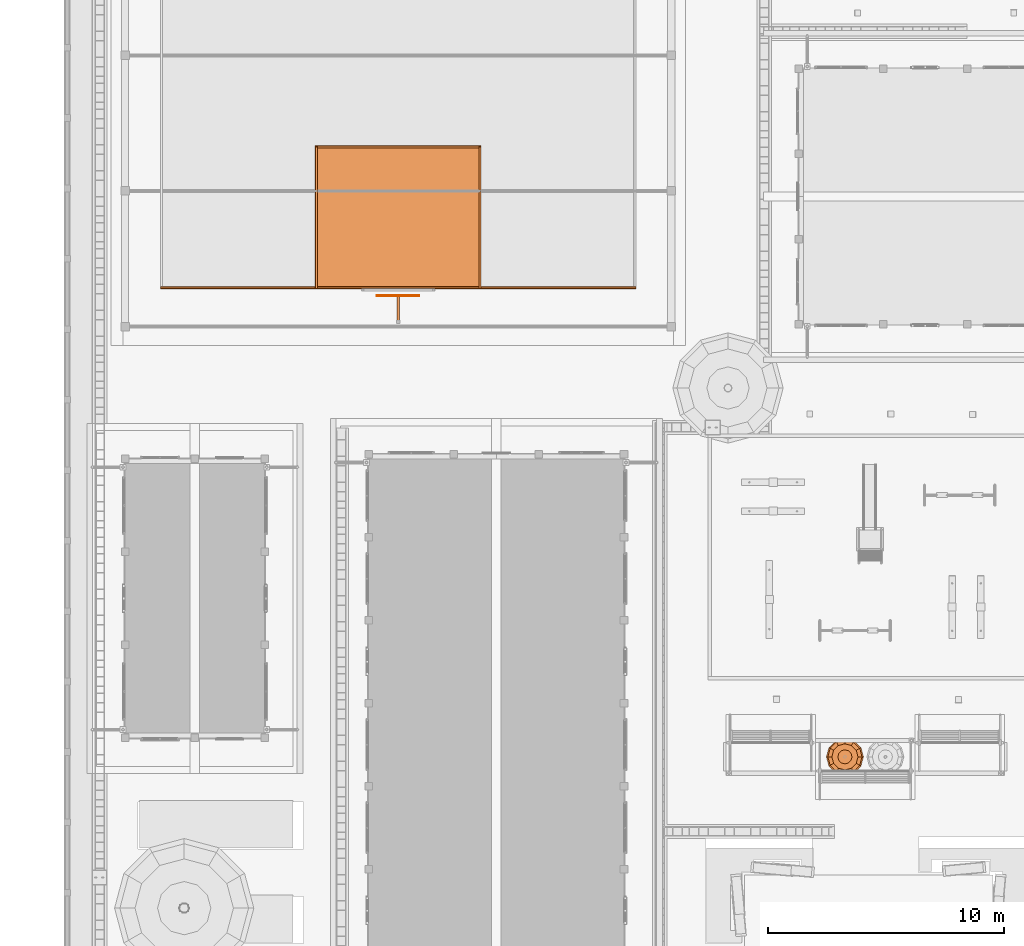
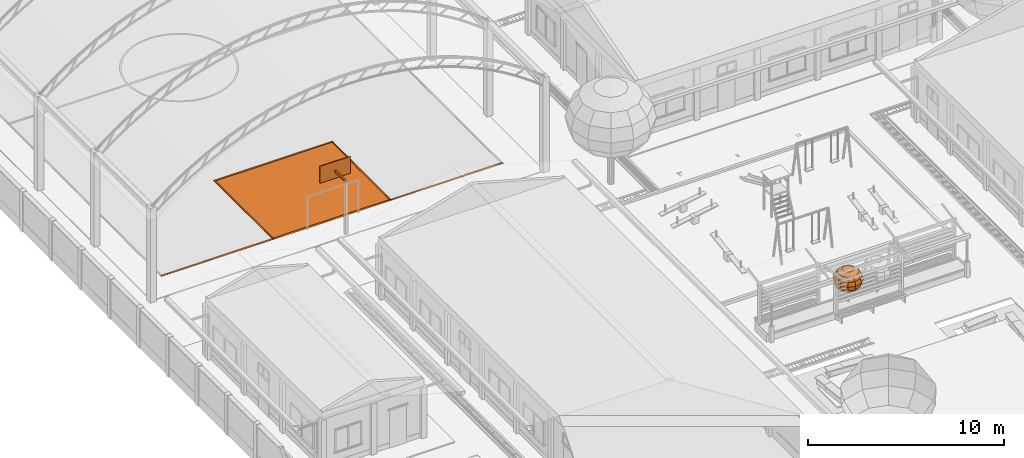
# One storey, part 157 of 166: 8 proxies.
"""IFC2X3 building model written with IfcOpenShell, lengths in metres."""

from ifc_helpers import new_model, si_unit, origin, origin_with_axes, place, context, subcontext, project, spatial, faceted_brep, element, save


model = new_model("IFC2X3")

# Units and contexts
model_context = context("Model", 3, precision=1e-05, world=origin_with_axes())
body_context = subcontext(model_context, "Body", "Model", "MODEL_VIEW")
ifc_project = project(units=[si_unit("LENGTHUNIT", "METRE"), si_unit("AREAUNIT", "SQUARE_METRE"), si_unit("VOLUMEUNIT", "CUBIC_METRE"), si_unit("PLANEANGLEUNIT", "RADIAN")], contexts=[model_context])

# Site, building, storey
site_placement = place(None, origin_with_axes())
site = spatial("IfcSite", under=ifc_project, at=site_placement, Name="Predio Los Mangos - Morales, San Martín", CompositionType="ELEMENT")
building_placement = place(site_placement, origin())
building = spatial("IfcBuilding", under=site, at=building_placement, Name="Hogar de Refugio Temporal", CompositionType="ELEMENT")
storey_placement = place(building_placement, origin())
storey = spatial("IfcBuildingStorey", under=building, at=storey_placement, Name="NIVEL 1 (NPT +0.00)", CompositionType="ELEMENT", Elevation=0.0)

# Proxies
proxy_1_placement = place(storey_placement, origin())
element("IfcBuildingElementProxy", 1, at=proxy_1_placement, inside=storey, Name="linea_cancha", ObjectType="Losa deportiva y vía", context=body_context, shape_type="Brep", body=[
    faceted_brep([(5.0, 94.2, 0.125), (5.0, 94.28, 0.125), (25.1, 94.28, 0.125), (25.1, 94.2, 0.125), (5.0, 94.2, 0.127), (25.1, 94.2, 0.127), (25.1, 94.28, 0.127), (5.0, 94.28, 0.127)], [[[0, 1, 2, 3]], [[4, 5, 6, 7]], [[0, 3, 5, 4]], [[3, 2, 6, 5]], [[2, 1, 7, 6]], [[1, 0, 4, 7]]]),
])
proxy_2_placement = place(storey_placement, origin())
element("IfcBuildingElementProxy", 2, at=proxy_2_placement, inside=storey, Name="area", ObjectType="Losa deportiva y vía", context=body_context, shape_type="Brep", body=[
    faceted_brep([(11.55, 94.2, 0.125), (11.55, 100.2, 0.125), (18.55, 100.2, 0.125), (18.55, 94.2, 0.125), (11.55, 94.2, 0.127), (18.55, 94.2, 0.127), (18.55, 100.2, 0.127), (11.55, 100.2, 0.127)], [[[0, 1, 2, 3]], [[4, 5, 6, 7]], [[0, 3, 5, 4]], [[3, 2, 6, 5]], [[2, 1, 7, 6]], [[1, 0, 4, 7]]]),
])
proxy_3_placement = place(storey_placement, origin())
element("IfcBuildingElementProxy", 3, at=proxy_3_placement, inside=storey, Name="linea_area", ObjectType="Losa deportiva y vía", context=body_context, shape_type="Brep", body=[
    faceted_brep([(11.55, 94.2, 0.127), (11.55, 100.2, 0.127), (11.63, 100.2, 0.127), (11.63, 94.2, 0.127), (11.55, 94.2, 0.129), (11.63, 94.2, 0.129), (11.63, 100.2, 0.129), (11.55, 100.2, 0.129)], [[[0, 1, 2, 3]], [[4, 5, 6, 7]], [[0, 3, 5, 4]], [[3, 2, 6, 5]], [[2, 1, 7, 6]], [[1, 0, 4, 7]]]),
])
proxy_4_placement = place(storey_placement, origin())
element("IfcBuildingElementProxy", 4, at=proxy_4_placement, inside=storey, Name="linea_area", ObjectType="Losa deportiva y vía", context=body_context, shape_type="Brep", body=[
    faceted_brep([(18.47, 94.2, 0.127), (18.47, 100.2, 0.127), (18.55, 100.2, 0.127), (18.55, 94.2, 0.127), (18.47, 94.2, 0.129), (18.55, 94.2, 0.129), (18.55, 100.2, 0.129), (18.47, 100.2, 0.129)], [[[0, 1, 2, 3]], [[4, 5, 6, 7]], [[0, 3, 5, 4]], [[3, 2, 6, 5]], [[2, 1, 7, 6]], [[1, 0, 4, 7]]]),
])
proxy_5_placement = place(storey_placement, origin())
element("IfcBuildingElementProxy", 5, at=proxy_5_placement, inside=storey, Name="linea_area", ObjectType="Losa deportiva y vía", context=body_context, shape_type="Brep", body=[
    faceted_brep([(11.55, 100.16, 0.127), (11.55, 100.24, 0.127), (18.55, 100.24, 0.127), (18.55, 100.16, 0.127), (11.55, 100.16, 0.129), (18.55, 100.16, 0.129), (18.55, 100.24, 0.129), (11.55, 100.24, 0.129)], [[[0, 1, 2, 3]], [[4, 5, 6, 7]], [[0, 3, 5, 4]], [[3, 2, 6, 5]], [[2, 1, 7, 6]], [[1, 0, 4, 7]]]),
])
proxy_6_placement = place(storey_placement, origin())
element("IfcBuildingElementProxy", 6, at=proxy_6_placement, inside=storey, Name="tablero", ObjectType="Losa deportiva y vía", context=body_context, shape_type="Brep", body=[
    faceted_brep([(14.15, 93.88, 2.9), (14.15, 93.92, 2.9), (15.95, 93.92, 2.9), (15.95, 93.88, 2.9), (14.15, 93.88, 3.95), (15.95, 93.88, 3.95), (15.95, 93.92, 3.95), (14.15, 93.92, 3.95)], [[[0, 1, 2, 3]], [[4, 5, 6, 7]], [[0, 3, 5, 4]], [[3, 2, 6, 5]], [[2, 1, 7, 6]], [[1, 0, 4, 7]]]),
])
proxy_7_placement = place(storey_placement, origin())
element("IfcBuildingElementProxy", 7, at=proxy_7_placement, inside=storey, Name="brazo", ObjectType="Losa deportiva y vía", context=body_context, shape_type="Brep", body=[
    faceted_brep([(15.0, 92.8, 3.3), (15.0, 93.9, 3.3), (15.1, 93.9, 3.3), (15.1, 92.8, 3.3), (15.0, 92.8, 3.4), (15.1, 92.8, 3.4), (15.1, 93.9, 3.4), (15.0, 93.9, 3.4)], [[[0, 1, 2, 3]], [[4, 5, 6, 7]], [[0, 3, 5, 4]], [[3, 2, 6, 5]], [[2, 1, 7, 6]], [[1, 0, 4, 7]]]),
])
proxy_8_placement = place(storey_placement, origin())
element("IfcBuildingElementProxy", 8, at=proxy_8_placement, inside=storey, Name="arbol_copa", ObjectType="Árbol", context=body_context, shape_type="Brep", body=[
    faceted_brep([(33.945, 74.4, 2.5172), (33.945, 74.4, 2.5172), (34.2042, 74.5496, 2.4666), (34.2443, 74.4, 2.4666), (33.945, 74.4, 2.5172), (34.0946, 74.6592, 2.4666), (33.945, 74.4, 2.5172), (33.945, 74.6993, 2.4666), (33.945, 74.4, 2.5172), (33.7954, 74.6592, 2.4666), (33.945, 74.4, 2.5172), (33.6858, 74.5496, 2.4666), (33.945, 74.4, 2.5172), (33.6457, 74.4, 2.4666), (33.945, 74.4, 2.5172), (33.6858, 74.2504, 2.4666), (33.945, 74.4, 2.5172), (33.7954, 74.1408, 2.4666), (33.945, 74.4, 2.5172), (33.945, 74.1007, 2.4666), (33.945, 74.4, 2.5172), (34.0946, 74.1408, 2.4666), (33.945, 74.4, 2.5172), (34.2042, 74.2504, 2.4666), (34.4239, 74.6765, 2.3225), (34.498, 74.4, 2.3225), (34.2215, 74.8789, 2.3225), (33.945, 74.953, 2.3225), (33.6685, 74.8789, 2.3225), (33.4661, 74.6765, 2.3225), (33.392, 74.4, 2.3225), (33.4661, 74.1235, 2.3225), (33.6685, 73.9211, 2.3225), (33.945, 73.847, 2.3225), (34.2215, 73.9211, 2.3225), (34.4239, 74.1235, 2.3225), (34.5707, 74.7612, 2.1069), (34.6675, 74.4, 2.1069), (34.3062, 75.0257, 2.1069), (33.945, 75.1225, 2.1069), (33.5838, 75.0257, 2.1069), (33.3193, 74.7612, 2.1069), (33.2225, 74.4, 2.1069), (33.3193, 74.0388, 2.1069), (33.5838, 73.7743, 2.1069), (33.945, 73.6775, 2.1069), (34.3062, 73.7743, 2.1069), (34.5707, 74.0388, 2.1069), (34.6222, 74.791, 1.8525), (34.727, 74.4, 1.8525), (34.336, 75.0772, 1.8525), (33.945, 75.182, 1.8525), (33.554, 75.0772, 1.8525), (33.2678, 74.791, 1.8525), (33.163, 74.4, 1.8525), (33.2678, 74.009, 1.8525), (33.554, 73.7228, 1.8525), (33.945, 73.618, 1.8525), (34.336, 73.7228, 1.8525), (34.6222, 74.009, 1.8525), (34.5707, 74.7612, 1.5981), (34.6675, 74.4, 1.5981), (34.3062, 75.0257, 1.5981), (33.945, 75.1225, 1.5981), (33.5838, 75.0257, 1.5981), (33.3193, 74.7612, 1.5981), (33.2225, 74.4, 1.5981), (33.3193, 74.0388, 1.5981), (33.5838, 73.7743, 1.5981), (33.945, 73.6775, 1.5981), (34.3062, 73.7743, 1.5981), (34.5707, 74.0388, 1.5981), (34.4239, 74.6765, 1.3825), (34.498, 74.4, 1.3825), (34.2215, 74.8789, 1.3825), (33.945, 74.953, 1.3825), (33.6685, 74.8789, 1.3825), (33.4661, 74.6765, 1.3825), (33.392, 74.4, 1.3825), (33.4661, 74.1235, 1.3825), (33.6685, 73.9211, 1.3825), (33.945, 73.847, 1.3825), (34.2215, 73.9211, 1.3825), (34.4239, 74.1235, 1.3825), (34.2042, 74.5496, 1.2384), (34.2443, 74.4, 1.2384), (34.0946, 74.6592, 1.2384), (33.945, 74.6993, 1.2384), (33.7954, 74.6592, 1.2384), (33.6858, 74.5496, 1.2384), (33.6457, 74.4, 1.2384), (33.6858, 74.2504, 1.2384), (33.7954, 74.1408, 1.2384), (33.945, 74.1007, 1.2384), (34.0946, 74.1408, 1.2384), (34.2042, 74.2504, 1.2384), (33.945, 74.4, 1.1878), (33.945, 74.4, 1.1878), (33.945, 74.4, 1.1878), (33.945, 74.4, 1.1878), (33.945, 74.4, 1.1878), (33.945, 74.4, 1.1878), (33.945, 74.4, 1.1878), (33.945, 74.4, 1.1878), (33.945, 74.4, 1.1878), (33.945, 74.4, 1.1878), (33.945, 74.4, 1.1878), (33.945, 74.4, 1.1878)], [[[0, 1, 2]], [[0, 2, 3]], [[1, 4, 5]], [[1, 5, 2]], [[4, 6, 7]], [[4, 7, 5]], [[6, 8, 9]], [[6, 9, 7]], [[8, 10, 11]], [[8, 11, 9]], [[10, 12, 13]], [[10, 13, 11]], [[12, 14, 15]], [[12, 15, 13]], [[14, 16, 17]], [[14, 17, 15]], [[16, 18, 19]], [[16, 19, 17]], [[18, 20, 21]], [[18, 21, 19]], [[20, 22, 23]], [[20, 23, 21]], [[22, 0, 3]], [[22, 3, 23]], [[3, 2, 24]], [[3, 24, 25]], [[2, 5, 26]], [[2, 26, 24]], [[5, 7, 27]], [[5, 27, 26]], [[7, 9, 28]], [[7, 28, 27]], [[9, 11, 29]], [[9, 29, 28]], [[11, 13, 30]], [[11, 30, 29]], [[13, 15, 31]], [[13, 31, 30]], [[15, 17, 32]], [[15, 32, 31]], [[17, 19, 33]], [[17, 33, 32]], [[19, 21, 34]], [[19, 34, 33]], [[21, 23, 35]], [[21, 35, 34]], [[23, 3, 25]], [[23, 25, 35]], [[25, 24, 36]], [[25, 36, 37]], [[24, 26, 38]], [[24, 38, 36]], [[26, 27, 39]], [[26, 39, 38]], [[27, 28, 40]], [[27, 40, 39]], [[28, 29, 41]], [[28, 41, 40]], [[29, 30, 42]], [[29, 42, 41]], [[30, 31, 43]], [[30, 43, 42]], [[31, 32, 44]], [[31, 44, 43]], [[32, 33, 45]], [[32, 45, 44]], [[33, 34, 46]], [[33, 46, 45]], [[34, 35, 47]], [[34, 47, 46]], [[35, 25, 37]], [[35, 37, 47]], [[37, 36, 48]], [[37, 48, 49]], [[36, 38, 50]], [[36, 50, 48]], [[38, 39, 51]], [[38, 51, 50]], [[39, 40, 52]], [[39, 52, 51]], [[40, 41, 53]], [[40, 53, 52]], [[41, 42, 54]], [[41, 54, 53]], [[42, 43, 55]], [[42, 55, 54]], [[43, 44, 56]], [[43, 56, 55]], [[44, 45, 57]], [[44, 57, 56]], [[45, 46, 58]], [[45, 58, 57]], [[46, 47, 59]], [[46, 59, 58]], [[47, 37, 49]], [[47, 49, 59]], [[49, 48, 60]], [[49, 60, 61]], [[48, 50, 62]], [[48, 62, 60]], [[50, 51, 63]], [[50, 63, 62]], [[51, 52, 64]], [[51, 64, 63]], [[52, 53, 65]], [[52, 65, 64]], [[53, 54, 66]], [[53, 66, 65]], [[54, 55, 67]], [[54, 67, 66]], [[55, 56, 68]], [[55, 68, 67]], [[56, 57, 69]], [[56, 69, 68]], [[57, 58, 70]], [[57, 70, 69]], [[58, 59, 71]], [[58, 71, 70]], [[59, 49, 61]], [[59, 61, 71]], [[61, 60, 72]], [[61, 72, 73]], [[60, 62, 74]], [[60, 74, 72]], [[62, 63, 75]], [[62, 75, 74]], [[63, 64, 76]], [[63, 76, 75]], [[64, 65, 77]], [[64, 77, 76]], [[65, 66, 78]], [[65, 78, 77]], [[66, 67, 79]], [[66, 79, 78]], [[67, 68, 80]], [[67, 80, 79]], [[68, 69, 81]], [[68, 81, 80]], [[69, 70, 82]], [[69, 82, 81]], [[70, 71, 83]], [[70, 83, 82]], [[71, 61, 73]], [[71, 73, 83]], [[73, 72, 84]], [[73, 84, 85]], [[72, 74, 86]], [[72, 86, 84]], [[74, 75, 87]], [[74, 87, 86]], [[75, 76, 88]], [[75, 88, 87]], [[76, 77, 89]], [[76, 89, 88]], [[77, 78, 90]], [[77, 90, 89]], [[78, 79, 91]], [[78, 91, 90]], [[79, 80, 92]], [[79, 92, 91]], [[80, 81, 93]], [[80, 93, 92]], [[81, 82, 94]], [[81, 94, 93]], [[82, 83, 95]], [[82, 95, 94]], [[83, 73, 85]], [[83, 85, 95]], [[85, 84, 96]], [[85, 96, 97]], [[84, 86, 98]], [[84, 98, 96]], [[86, 87, 99]], [[86, 99, 98]], [[87, 88, 100]], [[87, 100, 99]], [[88, 89, 101]], [[88, 101, 100]], [[89, 90, 102]], [[89, 102, 101]], [[90, 91, 103]], [[90, 103, 102]], [[91, 92, 104]], [[91, 104, 103]], [[92, 93, 105]], [[92, 105, 104]], [[93, 94, 106]], [[93, 106, 105]], [[94, 95, 107]], [[94, 107, 106]], [[95, 85, 97]], [[95, 97, 107]]]),
])

save(model, "model.ifc")
